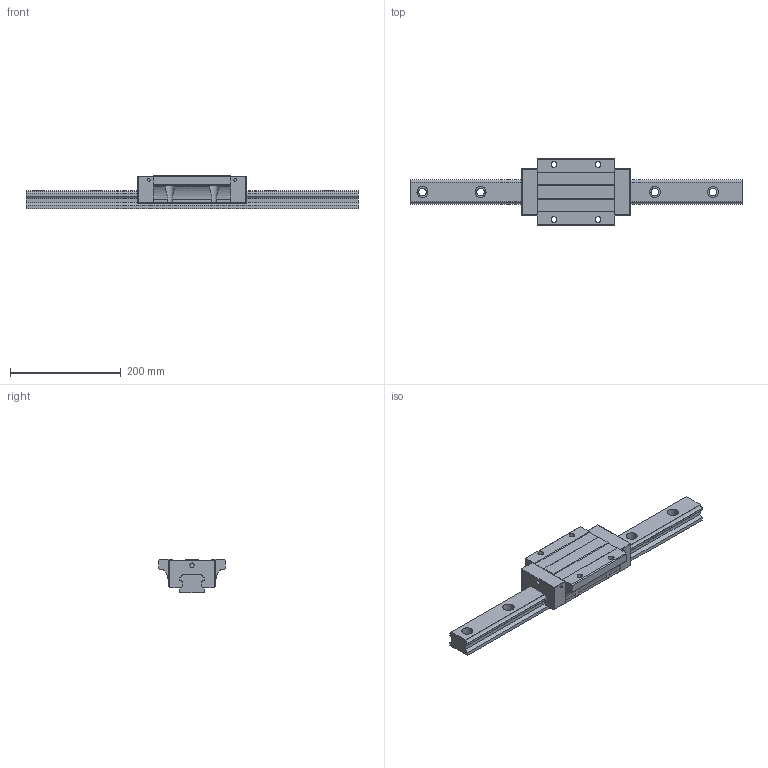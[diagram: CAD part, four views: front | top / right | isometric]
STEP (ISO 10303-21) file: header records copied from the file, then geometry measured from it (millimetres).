
FILE_DESCRIPTION (( 'STEP AP203' ), '1' );
FILE_NAME ('TRH45FE-WZ.STEP', '2024-05-09T03:19:59', ( '' ), ( '' ), 'SwSTEP 2.0', 'SolidWorks 2022', '' );
FILE_SCHEMA (( 'CONFIG_CONTROL_DESIGN' ));
Length unit declared in the file: millimetre
Products named in the file (1): TRH45FE-WZ
Bounding box: 600 x 120 x 60 mm (x, y, z)
Volume: 1438920.8 mm3; surface area: 189425.2 mm2
Topology: 2 solids, 2 shells, 214 faces, 582 edges, 380 vertices
Faces by surface type: cylinder 114, plane 96, sphere 4
Entity records: 7403 total; most frequent: CARTESIAN_POINT 1783, DIRECTION 1172, ORIENTED_EDGE 1156, EDGE_CURVE 578, AXIS2_PLACEMENT_3D 411, VERTEX_POINT 380, VECTOR 350, LINE 350
